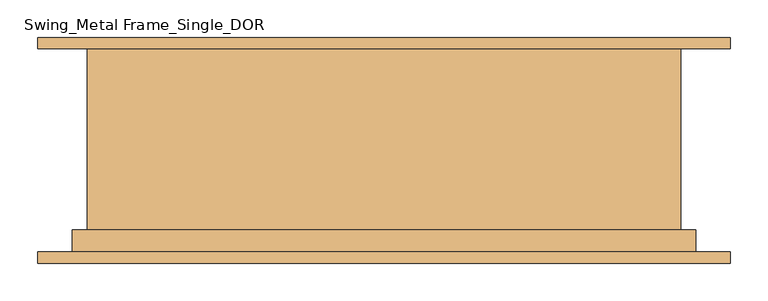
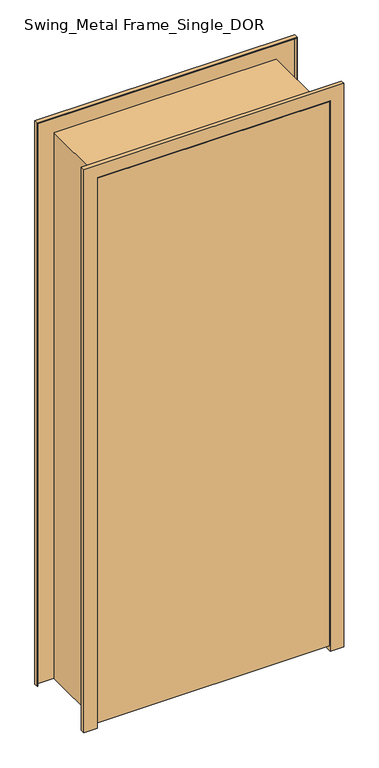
"""IFC4 building model written with IfcOpenShell, lengths in millimetres: door geometry, Swing_Metal Frame_Single_DOR : 2040h x 820 (2110x920 STUD)."""

from ifc_helpers import new_model, si_unit, frame, origin, place, context, project, spatial, polyline, outline, extrude, faceted_brep, source, transform, mapped, element, save


def swing_metal_frame_single_dor_f6c9d0f4(model_context):
    return source(origin(), model_context, "Body", "SolidModel", [
        extrude(outline(polyline([(410.0, -150.0), (-410.0, -150.0), (-410.0, -110.0), (410.0, -110.0), (410.0, -150.0)])), frame((0.0, 0.0, 20.0), z_axis=(0.0, 0.0, 1.0), x_axis=(1.0, 0.0, 0.0)), (0.0, 0.0, 1.0), 2040.0),
        faceted_brep([(-460.0, 150.0, 0.0), (-392.0, 150.0, 0.0), (-392.0, -108.0, 0.0), (-412.0, -108.0, 0.0), (-412.0, -150.0, 0.0), (-460.0, -150.0, 0.0), (-460.0, -135.0, 0.0), (-458.0, -135.0, 0.0), (-458.0, -148.0, 0.0), (-414.0, -148.0, 0.0), (-414.0, -106.0, 0.0), (-394.0, -106.0, 0.0), (-394.0, 148.0, 0.0), (-458.0, 148.0, 0.0), (-458.0, 135.0, 0.0), (-460.0, 135.0, 0.0), (-460.0, 135.0, 2110.0), (-460.0, 150.0, 2110.0), (-458.0, 135.0, 2108.0), (458.0, 135.0, 2108.0), (458.0, 135.0, 0.0), (460.0, 135.0, 0.0), (460.0, 135.0, 2110.0), (-458.0, 148.0, 2108.0), (-394.0, 148.0, 2044.0), (394.0, 148.0, 2044.0), (394.0, 148.0, 0.0), (458.0, 148.0, 0.0), (458.0, 148.0, 2108.0), (-394.0, -106.0, 2044.0), (-414.0, -106.0, 2064.0), (414.0, -106.0, 2064.0), (414.0, -106.0, 0.0), (394.0, -106.0, 0.0), (394.0, -106.0, 2044.0), (-414.0, -148.0, 2064.0), (-458.0, -148.0, 2108.0), (458.0, -148.0, 2108.0), (458.0, -148.0, 0.0), (414.0, -148.0, 0.0), (414.0, -148.0, 2064.0), (-458.0, -135.0, 2108.0), (-460.0, -135.0, 2110.0), (460.0, -135.0, 2110.0), (460.0, -135.0, 0.0), (458.0, -135.0, 0.0), (458.0, -135.0, 2108.0), (-460.0, -150.0, 2110.0), (-412.0, -150.0, 2062.0), (412.0, -150.0, 2062.0), (412.0, -150.0, 0.0), (460.0, -150.0, 0.0), (460.0, -150.0, 2110.0), (-412.0, -108.0, 2062.0), (-392.0, -108.0, 2042.0), (392.0, -108.0, 2042.0), (392.0, -108.0, 0.0), (412.0, -108.0, 0.0), (412.0, -108.0, 2062.0), (-392.0, 150.0, 2042.0), (460.0, 150.0, 2110.0), (460.0, 150.0, 0.0), (392.0, 150.0, 0.0), (392.0, 150.0, 2042.0)], [[[0, 1, 2, 3, 4, 5, 6, 7, 8, 9, 10, 11, 12, 13, 14, 15]], [[15, 16, 17, 0]], [[14, 18, 19, 20, 21, 22, 16, 15]], [[13, 23, 18, 14]], [[12, 24, 25, 26, 27, 28, 23, 13]], [[11, 29, 24, 12]], [[10, 30, 31, 32, 33, 34, 29, 11]], [[9, 35, 30, 10]], [[8, 36, 37, 38, 39, 40, 35, 9]], [[7, 41, 36, 8]], [[6, 42, 43, 44, 45, 46, 41, 7]], [[5, 47, 42, 6]], [[4, 48, 49, 50, 51, 52, 47, 5]], [[3, 53, 48, 4]], [[2, 54, 55, 56, 57, 58, 53, 3]], [[1, 59, 54, 2]], [[0, 17, 60, 61, 62, 63, 59, 1]], [[22, 21, 61, 60]], [[61, 21, 20, 27, 26, 33, 32, 39, 38, 45, 44, 51, 50, 57, 56, 62]], [[28, 27, 20, 19]], [[34, 33, 26, 25]], [[40, 39, 32, 31]], [[46, 45, 38, 37]], [[52, 51, 44, 43]], [[58, 57, 50, 49]], [[63, 62, 56, 55]], [[16, 22, 60, 17]], [[23, 28, 19, 18]], [[29, 34, 25, 24]], [[35, 40, 31, 30]], [[41, 46, 37, 36]], [[47, 52, 43, 42]], [[53, 58, 49, 48]], [[59, 63, 55, 54]]]),
    ])


if __name__ == "__main__":
    model = new_model("IFC4")
    model_context = context("Model", 3, world=origin())
    ifc_project = project(units=[si_unit("LENGTHUNIT", "METRE", prefix="MILLI")], contexts=[model_context])
    site = spatial("IfcSite", under=ifc_project)
    building = spatial("IfcBuilding", under=site)
    placement = place(None, origin())
    swing_metal_frame_single_dor_shape = swing_metal_frame_single_dor_f6c9d0f4(model_context)
    element("IfcDoor", 1, ObjectType="Swing_Metal Frame_Single_DOR : 2040h x 820 (2110x920 STUD)", at=placement, inside=building, context=model_context, shape_type="MappedRepresentation", body=[
        mapped(swing_metal_frame_single_dor_shape, transform((0.0, 0.0, 0.0), x_axis=(1.0, 0.0, 0.0), y_axis=(0.0, 1.0, 0.0), z_axis=(0.0, 0.0, 1.0))),
    ])
    save(model, "model.ifc")
